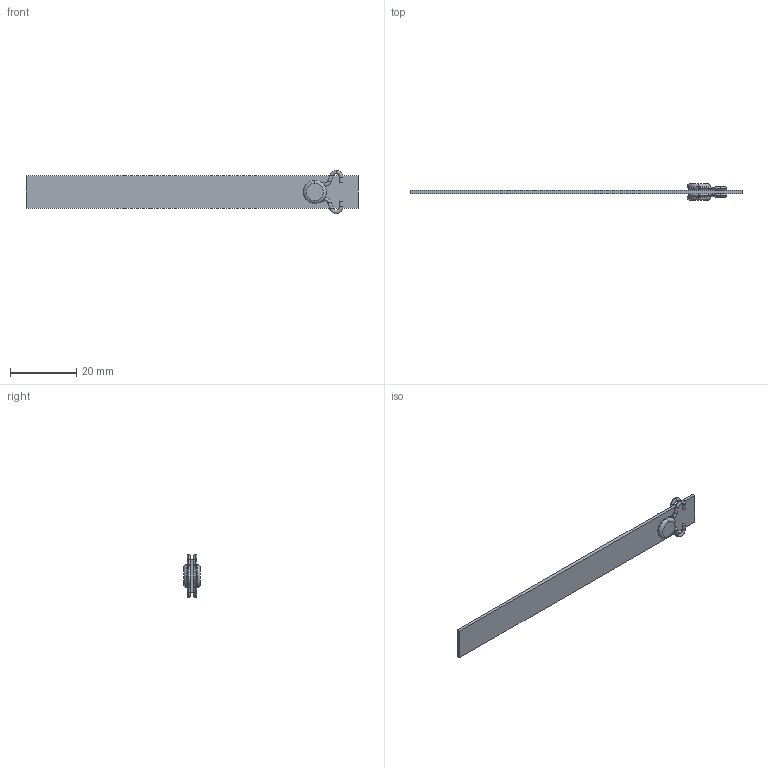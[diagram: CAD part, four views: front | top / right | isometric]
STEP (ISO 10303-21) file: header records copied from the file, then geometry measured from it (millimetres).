
FILE_DESCRIPTION (( 'STEP AP203' ), '1' );
FILE_NAME ('RLA-10x100.STEP', '2015-12-10T15:55:10', ( 'Balzi' ), ( '' ), 'SwSTEP 2.0', 'SolidWorks 2015', '' );
FILE_SCHEMA (( 'CONFIG_CONTROL_DESIGN' ));
Length unit declared in the file: millimetre
Products named in the file (1): RLA-10x100
Bounding box: 100 x 5 x 12.99 mm (x, y, z)
Volume: 1089.3 mm3; surface area: 2557.3 mm2
Topology: 5 solids, 5 shells, 84 faces, 162 edges, 88 vertices
Faces by surface type: torus 40, cylinder 30, plane 14
Entity records: 2199 total; most frequent: DIRECTION 452, CARTESIAN_POINT 335, ORIENTED_EDGE 324, AXIS2_PLACEMENT_3D 205, EDGE_CURVE 162, CIRCLE 120, VERTEX_POINT 88, EDGE_LOOP 86
